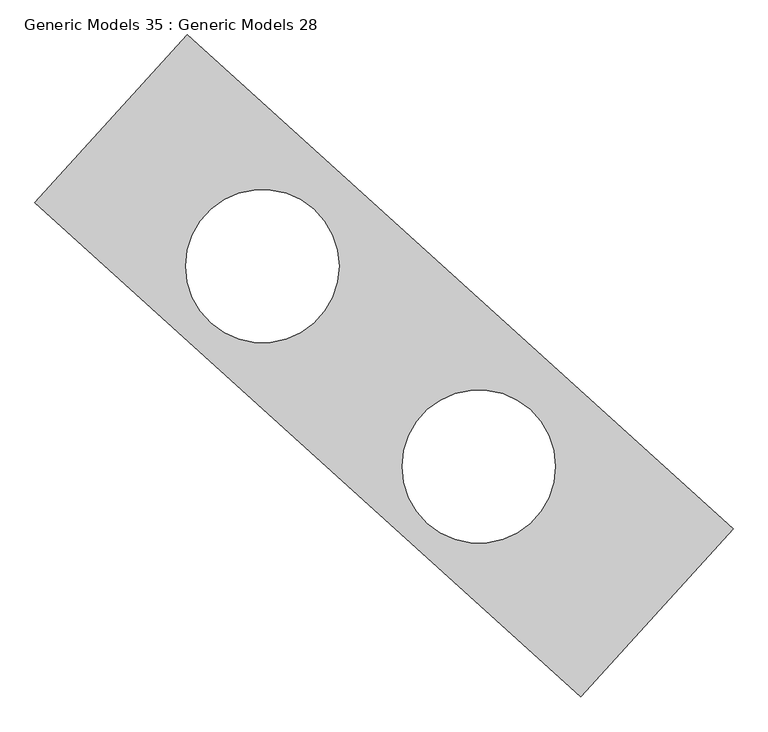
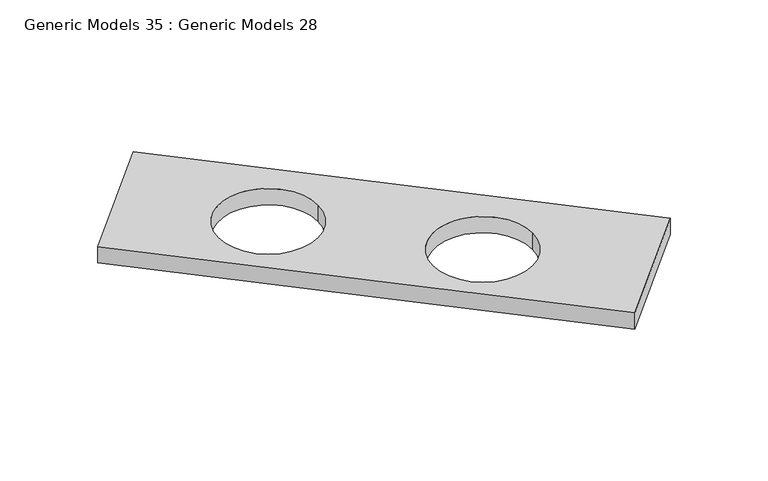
"""IFC4 building model written with IfcOpenShell, lengths in millimetres: proxy geometry, Generic Models 35 : Generic Models 28."""

from ifc_helpers import new_model, si_unit, point, frame, frame_2d, origin, place, context, project, spatial, polyline, circle_curve, trimmed, segment, composite_curve, outline, extrude, source, transform, mapped, element, save


def generic_models_35_generic_models_28_04df1b74(model_context):
    return source(origin(), model_context, "Body", "SweptSolid", [
        extrude(outline(polyline([(-5804.725153, -1172.229618), (-4359.2305785, -2481.074074), (-4761.9471521, -2925.8363371), (-6207.4417267, -1616.9918812), (-5804.725153, -1172.229618)]), holes=[composite_curve([segment(trimmed(circle_curve(frame_2d((-5605.3750923, -1785.0551799)), 203.0), [point((-5808.3750923, -1785.0551799))], [point((-5402.3750923, -1785.0551799))], True, "CARTESIAN"), True, "CONTINUOUS"), segment(trimmed(circle_curve(frame_2d((-5605.3750923, -1785.0551799)), 203.0), [point((-5402.3750923, -1785.0551799))], [point((-5808.3750923, -1785.0551799))], True, "CARTESIAN"), True, "CONTINUOUS")], self_intersect=False), composite_curve([segment(trimmed(circle_curve(frame_2d((-5032.3687223, -2315.8396196)), 203.0), [point((-5235.3687223, -2315.8396196))], [point((-4829.3687223, -2315.8396196))], True, "CARTESIAN"), True, "CONTINUOUS"), segment(trimmed(circle_curve(frame_2d((-5032.3687223, -2315.8396196)), 203.0), [point((-4829.3687223, -2315.8396196))], [point((-5235.3687223, -2315.8396196))], True, "CARTESIAN"), True, "CONTINUOUS")], self_intersect=False)]), frame((0.0, 0.0, 730.0), z_axis=(0.0, 0.0, 1.0), x_axis=(1.0, 0.0, 0.0)), (0.0, 0.0, 1.0), 70.0),
    ])


if __name__ == "__main__":
    model = new_model("IFC4")
    model_context = context("Model", 3, world=origin())
    ifc_project = project(units=[si_unit("LENGTHUNIT", "METRE", prefix="MILLI")], contexts=[model_context])
    site = spatial("IfcSite", under=ifc_project)
    building = spatial("IfcBuilding", under=site)
    placement = place(None, origin())
    generic_models_35_generic_models_28_shape = generic_models_35_generic_models_28_04df1b74(model_context)
    element("IfcBuildingElementProxy", 1, Name="Generic Models 35 : Generic Models 28", ObjectType="Generic Models 35 : Generic Models 28", at=placement, inside=building, context=model_context, shape_type="MappedRepresentation", body=[
        mapped(generic_models_35_generic_models_28_shape, transform((0.0, 0.0, 0.0), x_axis=(1.0, 0.0, 0.0), y_axis=(0.0, 1.0, 0.0), z_axis=(0.0, 0.0, 1.0))),
    ])
    save(model, "model.ifc")
